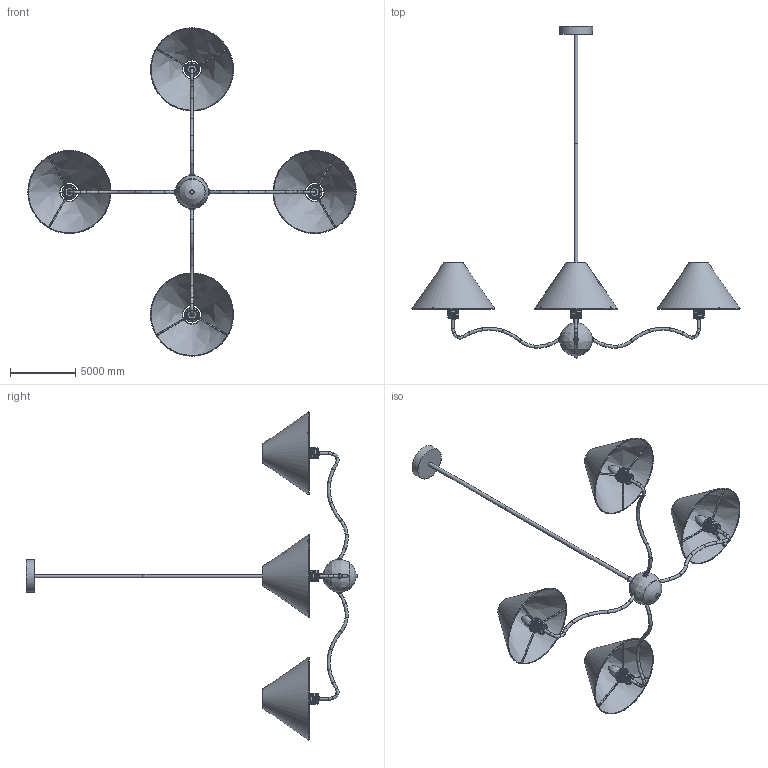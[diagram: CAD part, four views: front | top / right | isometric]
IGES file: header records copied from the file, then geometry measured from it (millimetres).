
Global section: file name: Madelyn Chandelier-4heads; native system: AutoCAD 2022 - 简体中文 (Simplified Chinese),62HAuto; preprocessor: desk Translation Framework DWG producer (atf_dwg_producer); organization: unknown; date: 20251014.143047; units: inch
Bounding box: 25120.93 x 25411.98 x 25120.93 mm (x, y, z)
Volume: 13074618927.9 mm3; surface area: 635509682.8 mm2
Topology: 52 solids, 52 shells, 462 faces, 1094 edges, 738 vertices
Faces by surface type: bspline 462
